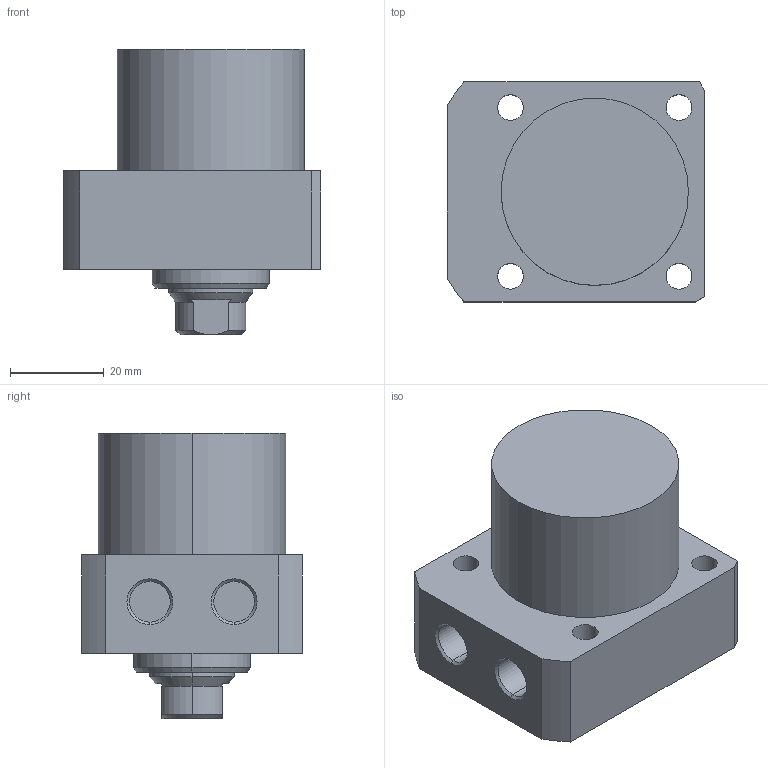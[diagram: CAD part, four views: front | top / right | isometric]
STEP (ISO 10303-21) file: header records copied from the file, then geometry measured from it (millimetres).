
FILE_DESCRIPTION (( 'STEP AP203' ), '1' );
FILE_NAME ('CLLR-040CA-015.STEP', '2019-12-19T09:08:21', ( '' ), ( '' ), 'SwSTEP 2.0', 'SolidWorks 2015', '' );
FILE_SCHEMA (( 'CONFIG_CONTROL_DESIGN' ));
Length unit declared in the file: millimetre
Products named in the file (1): CLLR-040CA-015
Bounding box: 55 x 47 x 61 mm (x, y, z)
Volume: 85736.9 mm3; surface area: 15731.2 mm2
Topology: 1 solids, 1 shells, 63 faces, 147 edges, 92 vertices
Faces by surface type: cylinder 29, plane 19, cone 15
Entity records: 1913 total; most frequent: DIRECTION 338, CARTESIAN_POINT 337, ORIENTED_EDGE 290, EDGE_CURVE 145, AXIS2_PLACEMENT_3D 137, VERTEX_POINT 92, EDGE_LOOP 79, CIRCLE 73
